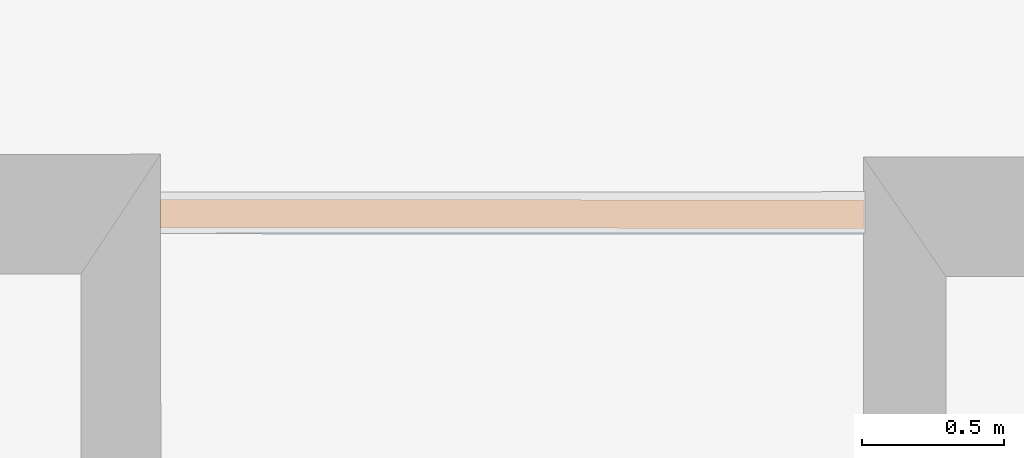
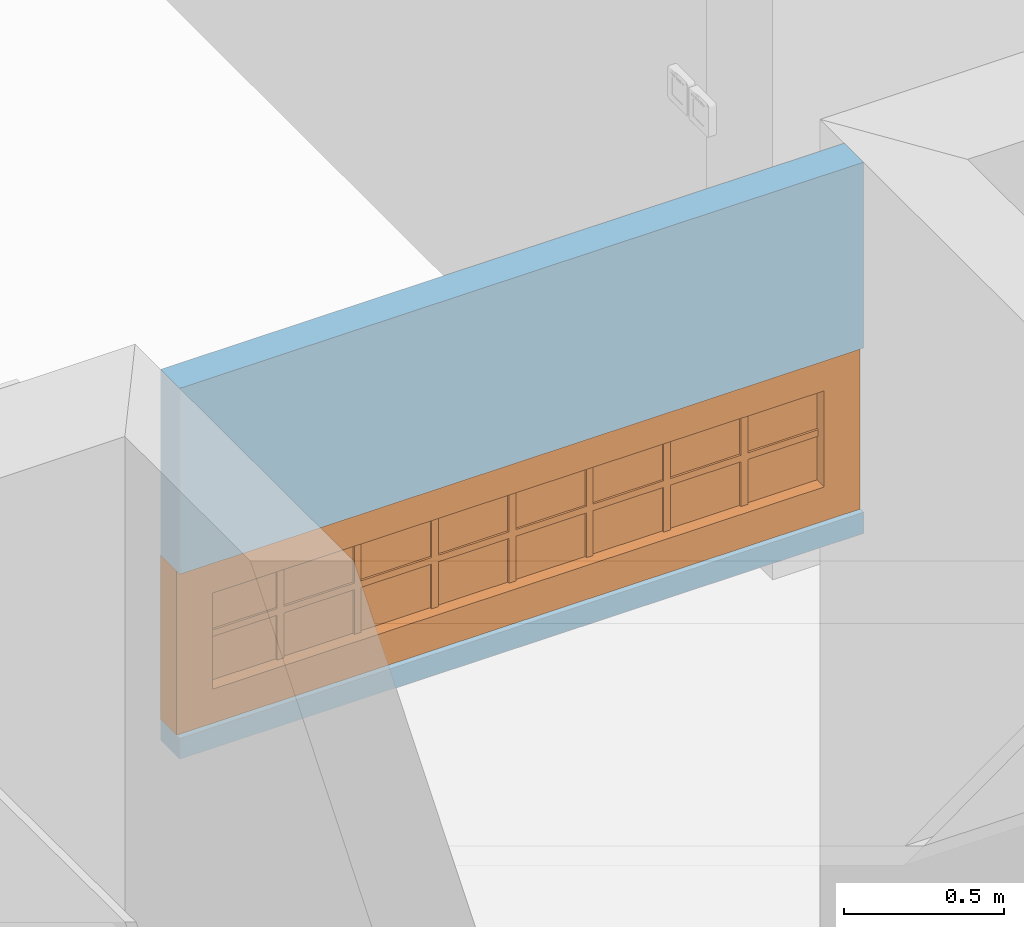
# One storey, part 75 of 158: 1 proxy, 1 opening, plus 1 element that does not belong to this part.
"""IFC2X3 building model written with IfcOpenShell, lengths in metres."""

from ifc_helpers import new_model, entity, si_unit, converted_unit, derived_unit, money_unit, direction, frame, origin_with_axes, origin_2d_with_axis, place, context, subcontext, project, spatial, polyline, rectangle, outline, extrude, faceted_brep, material, layer, layer_set, layer_usage, type_object, element, fill, save


model = new_model("IFC2X3")

# Units and contexts
model_context = context("Model", 3, precision=1e-05, world=origin_with_axes(), true_north=direction((0.0, 1.0)))
body_context = subcontext(model_context, "Body", "Model", "MODEL_VIEW")
ifc_project = project(units=[si_unit("LENGTHUNIT", "METRE"), si_unit("AREAUNIT", "SQUARE_METRE"), si_unit("VOLUMEUNIT", "CUBIC_METRE"), converted_unit("PLANEANGLEUNIT", "DEGREE", entity("IfcPlaneAngleMeasure", 0.0174532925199), si_unit("PLANEANGLEUNIT", "RADIAN"), dimensions=[0, 0, 0, 0, 0, 0, 0]), money_unit("EUR"), converted_unit("TIMEUNIT", "Year", entity("IfcTimeMeasure", 31556926.0), si_unit("TIMEUNIT", "SECOND"), dimensions=[0, 0, 1, 0, 0, 0, 0]), si_unit("MASSUNIT", "GRAM", prefix="KILO"), si_unit("THERMODYNAMICTEMPERATUREUNIT", "DEGREE_CELSIUS"), si_unit("LUMINOUSINTENSITYUNIT", "LUMEN"), si_unit("ENERGYUNIT", "JOULE", prefix="MEGA"), derived_unit("THERMALCONDUCTANCEUNIT", [(si_unit("POWERUNIT", "WATT"), 1), (si_unit("LENGTHUNIT", "METRE"), -1), (si_unit("THERMODYNAMICTEMPERATUREUNIT", "KELVIN"), -1)]), derived_unit("SPECIFICHEATCAPACITYUNIT", [(si_unit("ENERGYUNIT", "JOULE"), 1), (si_unit("MASSUNIT", "GRAM", prefix="KILO"), -1), (si_unit("THERMODYNAMICTEMPERATUREUNIT", "KELVIN"), -1)]), derived_unit("MASSDENSITYUNIT", [(si_unit("MASSUNIT", "GRAM", prefix="KILO"), 1), (si_unit("VOLUMEUNIT", "CUBIC_METRE"), -1)])], contexts=[model_context])

# Site, building, storey
site_placement = place(None, origin_with_axes())
site = spatial("IfcSite", under=ifc_project, at=site_placement, Name="Gelände", CompositionType="ELEMENT")
building_placement = place(site_placement, origin_with_axes())
building = spatial("IfcBuilding", under=site, at=building_placement, Name="Gebäude", CompositionType="ELEMENT")
storey_placement = place(building_placement, origin_with_axes())
storey = spatial("IfcBuildingStorey", under=building, at=storey_placement, Name="ERDGESCHOSS", CompositionType="ELEMENT", Elevation=0.0)

# Wall, opening, proxy
ifc_material = material(Name="05_ALLGEMEIN - TRAGENDE BAUTEILE")
ifc_layer = layer(ifc_material, 0.12, ventilated="UNKNOWN")
ifc_layer_set = layer_set([ifc_layer], Name="05_ALLGEMEIN - TRAGENDE BAUTEILE 0.12")
ifc_layer_usage = layer_usage(ifc_layer_set, "AXIS2", "NEGATIVE", 0.0)
wall_type = type_object("IfcWallType", Name="05_ALLGEMEIN - TRAGENDE BAUTEILE 120", PredefinedType="ELEMENTEDWALL")
wall_placement = place(storey_placement, frame((-8.8958416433, 16.6259238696, 2.18389869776), z_axis=(0.0, 0.0, 1.0), x_axis=(0.999999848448, -0.000550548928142, 0.0)))
wall = element("IfcWallStandardCase", 1, at=wall_placement, inside=storey, type_object=wall_type, material=ifc_layer_usage, Name="Wand-036", ObjectType="ELEMENTEDWALL", context=body_context, shape_type="SweptSolid", body=[
    extrude(outline(polyline([(0.280162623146, -0.12), (2.74785957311, -0.12), (2.74785957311, 0.0), (0.280000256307, 0.0), (0.280162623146, -0.12)])), origin_with_axes(), (0.0, 0.0, 1.0), 1.41610130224),
])
opening_placement = place(wall_placement, frame((1.51392991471, 0.0, 0.0799876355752), z_axis=(0.0, 0.0, 1.0), x_axis=(1.0, 0.0, 0.0)))
opening = element("IfcOpeningElement", 2, at=opening_placement, cuts=wall, Name="Fenster-016", context=body_context, shape_type="SweptSolid", body=[
    extrude(rectangle(XDim=2.4678593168, YDim=0.62715, at=origin_2d_with_axis()), frame((0.0, -0.12, 0.313575), z_axis=(0.0, 1.0, 0.0), x_axis=(-1.0, 0.0, 0.0)), (0.0, 0.0, 1.0), 0.36),
])
building_element_proxy_type = type_object("IfcBuildingElementProxyType", Name="1-Flügelfenster 25", PredefinedType="NOTDEFINED")
proxy_placement = place(opening_placement, frame((1.2339296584, 0.0, 0.0), z_axis=(0.0, 0.0, 1.0), x_axis=(-1.0, 0.0, 0.0)))
proxy = element("IfcBuildingElementProxy", 3, at=proxy_placement, inside=storey, type_object=building_element_proxy_type, Name="Fenster-016", context=body_context, shape_type="Brep", body=[
    faceted_brep([(0.0, 0.0, 0.0), (0.0, 0.1, 0.0), (0.13, 0.1, 0.13), (0.13, 0.0, 0.13), (0.0, 0.0, 0.62715), (0.0, 0.1, 0.62715), (0.13, 0.1, 0.49715), (0.13, 0.0, 0.49715)], [[[0, 1, 2, 3]], [[4, 5, 1, 0]], [[1, 5, 6, 2]], [[3, 2, 6, 7]], [[0, 3, 7, 4]], [[7, 6, 5, 4]]]),
    faceted_brep([(2.4678593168, 0.0, 0.0), (2.4678593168, 0.1, 0.0), (2.4678593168, 0.1, 0.62715), (2.4678593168, 0.0, 0.62715), (2.3378593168, 0.0, 0.13), (2.3378593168, 0.1, 0.13), (2.3378593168, 0.1, 0.49715), (2.3378593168, 0.0, 0.49715)], [[[0, 1, 2, 3]], [[4, 5, 1, 0]], [[1, 5, 6, 2]], [[3, 2, 6, 7]], [[0, 3, 7, 4]], [[7, 6, 5, 4]]]),
    faceted_brep([(0.0, 0.0, 0.0), (0.0, 0.1, 0.0), (2.4678593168, 0.1, 0.0), (2.4678593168, 0.0, 0.0), (0.13, 0.0, 0.13), (0.13, 0.1, 0.13), (1.2339296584, 0.1, 0.13), (2.3378593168, 0.1, 0.13), (2.3378593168, 0.0, 0.13), (1.2339296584, 0.0, 0.13)], [[[0, 1, 2, 3]], [[4, 5, 1, 0]], [[1, 5, 6, 7, 2]], [[3, 2, 7, 8]], [[0, 3, 8, 9, 4]], [[9, 6, 5, 4]], [[8, 7, 6, 9]]]),
    faceted_brep([(0.0, 0.0, 0.62715), (0.0, 0.1, 0.62715), (0.13, 0.1, 0.49715), (0.13, 0.0, 0.49715), (2.4678593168, 0.0, 0.62715), (2.4678593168, 0.1, 0.62715), (2.3378593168, 0.1, 0.49715), (1.2339296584, 0.1, 0.49715), (1.2339296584, 0.0, 0.49715), (2.3378593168, 0.0, 0.49715)], [[[0, 1, 2, 3]], [[4, 5, 1, 0]], [[1, 5, 6, 7, 2]], [[3, 2, 7, 8]], [[0, 3, 8, 9, 4]], [[9, 6, 5, 4]], [[8, 7, 6, 9]]]),
    faceted_brep([(0.3841074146, 0.0375, 0.13), (0.3841074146, 0.05, 0.13), (0.4091074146, 0.05, 0.13), (0.4091074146, 0.0375, 0.13), (0.3841074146, 0.0375, 0.49715), (0.3841074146, 0.05, 0.49715), (0.4091074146, 0.05, 0.49715), (0.4091074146, 0.0375, 0.49715)], [[[0, 1, 2, 3]], [[4, 5, 1, 0]], [[1, 5, 6, 2]], [[3, 2, 6, 7]], [[0, 3, 7, 4]], [[7, 6, 5, 4]]]),
    faceted_brep([(0.3841074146, 0.05, 0.13), (0.3841074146, 0.0625, 0.13), (0.4091074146, 0.0625, 0.13), (0.4091074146, 0.05, 0.13), (0.3841074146, 0.05, 0.49715), (0.3841074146, 0.0625, 0.49715), (0.4091074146, 0.0625, 0.49715), (0.4091074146, 0.05, 0.49715)], [[[0, 1, 2, 3]], [[4, 5, 1, 0]], [[1, 5, 6, 2]], [[3, 2, 6, 7]], [[0, 3, 7, 4]], [[7, 6, 5, 4]]]),
    faceted_brep([(0.6632148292, 0.0375, 0.13), (0.6632148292, 0.05, 0.13), (0.6882148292, 0.05, 0.13), (0.6882148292, 0.0375, 0.13), (0.6632148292, 0.0375, 0.49715), (0.6632148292, 0.05, 0.49715), (0.6882148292, 0.05, 0.49715), (0.6882148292, 0.0375, 0.49715)], [[[0, 1, 2, 3]], [[4, 5, 1, 0]], [[1, 5, 6, 2]], [[3, 2, 6, 7]], [[0, 3, 7, 4]], [[7, 6, 5, 4]]]),
    faceted_brep([(0.6632148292, 0.05, 0.13), (0.6632148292, 0.0625, 0.13), (0.6882148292, 0.0625, 0.13), (0.6882148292, 0.05, 0.13), (0.6632148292, 0.05, 0.49715), (0.6632148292, 0.0625, 0.49715), (0.6882148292, 0.0625, 0.49715), (0.6882148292, 0.05, 0.49715)], [[[0, 1, 2, 3]], [[4, 5, 1, 0]], [[1, 5, 6, 2]], [[3, 2, 6, 7]], [[0, 3, 7, 4]], [[7, 6, 5, 4]]]),
    faceted_brep([(0.9423222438, 0.0375, 0.13), (0.9423222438, 0.05, 0.13), (0.9673222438, 0.05, 0.13), (0.9673222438, 0.0375, 0.13), (0.9423222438, 0.0375, 0.49715), (0.9423222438, 0.05, 0.49715), (0.9673222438, 0.05, 0.49715), (0.9673222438, 0.0375, 0.49715)], [[[0, 1, 2, 3]], [[4, 5, 1, 0]], [[1, 5, 6, 2]], [[3, 2, 6, 7]], [[0, 3, 7, 4]], [[7, 6, 5, 4]]]),
    faceted_brep([(0.9423222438, 0.05, 0.13), (0.9423222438, 0.0625, 0.13), (0.9673222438, 0.0625, 0.13), (0.9673222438, 0.05, 0.13), (0.9423222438, 0.05, 0.49715), (0.9423222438, 0.0625, 0.49715), (0.9673222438, 0.0625, 0.49715), (0.9673222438, 0.05, 0.49715)], [[[0, 1, 2, 3]], [[4, 5, 1, 0]], [[1, 5, 6, 2]], [[3, 2, 6, 7]], [[0, 3, 7, 4]], [[7, 6, 5, 4]]]),
    faceted_brep([(1.2214296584, 0.0375, 0.13), (1.2214296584, 0.05, 0.13), (1.2464296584, 0.05, 0.13), (1.2464296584, 0.0375, 0.13), (1.2214296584, 0.0375, 0.49715), (1.2214296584, 0.05, 0.49715), (1.2464296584, 0.05, 0.49715), (1.2464296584, 0.0375, 0.49715)], [[[0, 1, 2, 3]], [[4, 5, 1, 0]], [[1, 5, 6, 2]], [[3, 2, 6, 7]], [[0, 3, 7, 4]], [[7, 6, 5, 4]]]),
    faceted_brep([(1.2214296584, 0.05, 0.13), (1.2214296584, 0.0625, 0.13), (1.2464296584, 0.0625, 0.13), (1.2464296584, 0.05, 0.13), (1.2214296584, 0.05, 0.49715), (1.2214296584, 0.0625, 0.49715), (1.2464296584, 0.0625, 0.49715), (1.2464296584, 0.05, 0.49715)], [[[0, 1, 2, 3]], [[4, 5, 1, 0]], [[1, 5, 6, 2]], [[3, 2, 6, 7]], [[0, 3, 7, 4]], [[7, 6, 5, 4]]]),
    faceted_brep([(1.500537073, 0.0375, 0.13), (1.500537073, 0.05, 0.13), (1.525537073, 0.05, 0.13), (1.525537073, 0.0375, 0.13), (1.500537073, 0.0375, 0.49715), (1.500537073, 0.05, 0.49715), (1.525537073, 0.05, 0.49715), (1.525537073, 0.0375, 0.49715)], [[[0, 1, 2, 3]], [[4, 5, 1, 0]], [[1, 5, 6, 2]], [[3, 2, 6, 7]], [[0, 3, 7, 4]], [[7, 6, 5, 4]]]),
    faceted_brep([(1.500537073, 0.05, 0.13), (1.500537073, 0.0625, 0.13), (1.525537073, 0.0625, 0.13), (1.525537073, 0.05, 0.13), (1.500537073, 0.05, 0.49715), (1.500537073, 0.0625, 0.49715), (1.525537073, 0.0625, 0.49715), (1.525537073, 0.05, 0.49715)], [[[0, 1, 2, 3]], [[4, 5, 1, 0]], [[1, 5, 6, 2]], [[3, 2, 6, 7]], [[0, 3, 7, 4]], [[7, 6, 5, 4]]]),
    faceted_brep([(1.7796444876, 0.0375, 0.13), (1.7796444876, 0.05, 0.13), (1.8046444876, 0.05, 0.13), (1.8046444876, 0.0375, 0.13), (1.7796444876, 0.0375, 0.49715), (1.7796444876, 0.05, 0.49715), (1.8046444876, 0.05, 0.49715), (1.8046444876, 0.0375, 0.49715)], [[[0, 1, 2, 3]], [[4, 5, 1, 0]], [[1, 5, 6, 2]], [[3, 2, 6, 7]], [[0, 3, 7, 4]], [[7, 6, 5, 4]]]),
    faceted_brep([(1.7796444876, 0.05, 0.13), (1.7796444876, 0.0625, 0.13), (1.8046444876, 0.0625, 0.13), (1.8046444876, 0.05, 0.13), (1.7796444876, 0.05, 0.49715), (1.7796444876, 0.0625, 0.49715), (1.8046444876, 0.0625, 0.49715), (1.8046444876, 0.05, 0.49715)], [[[0, 1, 2, 3]], [[4, 5, 1, 0]], [[1, 5, 6, 2]], [[3, 2, 6, 7]], [[0, 3, 7, 4]], [[7, 6, 5, 4]]]),
    faceted_brep([(2.0587519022, 0.0375, 0.13), (2.0587519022, 0.05, 0.13), (2.0837519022, 0.05, 0.13), (2.0837519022, 0.0375, 0.13), (2.0587519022, 0.0375, 0.49715), (2.0587519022, 0.05, 0.49715), (2.0837519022, 0.05, 0.49715), (2.0837519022, 0.0375, 0.49715)], [[[0, 1, 2, 3]], [[4, 5, 1, 0]], [[1, 5, 6, 2]], [[3, 2, 6, 7]], [[0, 3, 7, 4]], [[7, 6, 5, 4]]]),
    faceted_brep([(2.0587519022, 0.05, 0.13), (2.0587519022, 0.0625, 0.13), (2.0837519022, 0.0625, 0.13), (2.0837519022, 0.05, 0.13), (2.0587519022, 0.05, 0.49715), (2.0587519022, 0.0625, 0.49715), (2.0837519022, 0.0625, 0.49715), (2.0837519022, 0.05, 0.49715)], [[[0, 1, 2, 3]], [[4, 5, 1, 0]], [[1, 5, 6, 2]], [[3, 2, 6, 7]], [[0, 3, 7, 4]], [[7, 6, 5, 4]]]),
    faceted_brep([(2.0587519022, 0.0375, 0.301075), (2.0587519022, 0.0375, 0.326075), (1.8046444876, 0.0375, 0.326075), (1.8046444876, 0.0375, 0.301075), (2.0587519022, 0.05, 0.326075), (2.0587519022, 0.05, 0.301075), (1.8046444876, 0.05, 0.326075), (1.8046444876, 0.05, 0.301075)], [[[0, 1, 2, 3]], [[4, 1, 0, 5]], [[1, 4, 6, 2]], [[2, 6, 7, 3]], [[5, 0, 3, 7]], [[4, 5, 7, 6]]]),
    faceted_brep([(1.525537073, 0.0375, 0.326075), (1.525537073, 0.0375, 0.301075), (1.7796444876, 0.0375, 0.301075), (1.7796444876, 0.0375, 0.326075), (1.525537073, 0.05, 0.301075), (1.525537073, 0.05, 0.326075), (1.7796444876, 0.05, 0.301075), (1.7796444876, 0.05, 0.326075)], [[[0, 1, 2, 3]], [[4, 1, 0, 5]], [[1, 4, 6, 2]], [[2, 6, 7, 3]], [[5, 0, 3, 7]], [[4, 5, 7, 6]]]),
    faceted_brep([(1.500537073, 0.0375, 0.301075), (1.500537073, 0.0375, 0.326075), (1.2464296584, 0.0375, 0.326075), (1.2464296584, 0.0375, 0.301075), (1.500537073, 0.05, 0.326075), (1.500537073, 0.05, 0.301075), (1.2464296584, 0.05, 0.326075), (1.2464296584, 0.05, 0.301075)], [[[0, 1, 2, 3]], [[4, 1, 0, 5]], [[1, 4, 6, 2]], [[2, 6, 7, 3]], [[5, 0, 3, 7]], [[4, 5, 7, 6]]]),
    faceted_brep([(0.9673222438, 0.0375, 0.326075), (0.9673222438, 0.0375, 0.301075), (1.2214296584, 0.0375, 0.301075), (1.2214296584, 0.0375, 0.326075), (0.9673222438, 0.05, 0.301075), (0.9673222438, 0.05, 0.326075), (1.2214296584, 0.05, 0.301075), (1.2214296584, 0.05, 0.326075)], [[[0, 1, 2, 3]], [[4, 1, 0, 5]], [[1, 4, 6, 2]], [[2, 6, 7, 3]], [[5, 0, 3, 7]], [[4, 5, 7, 6]]]),
    faceted_brep([(0.9423222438, 0.0375, 0.301075), (0.9423222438, 0.0375, 0.326075), (0.6882148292, 0.0375, 0.326075), (0.6882148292, 0.0375, 0.301075), (0.9423222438, 0.05, 0.326075), (0.9423222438, 0.05, 0.301075), (0.6882148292, 0.05, 0.326075), (0.6882148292, 0.05, 0.301075)], [[[0, 1, 2, 3]], [[4, 1, 0, 5]], [[1, 4, 6, 2]], [[2, 6, 7, 3]], [[5, 0, 3, 7]], [[4, 5, 7, 6]]]),
    faceted_brep([(0.4091074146, 0.0375, 0.326075), (0.4091074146, 0.0375, 0.301075), (0.6632148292, 0.0375, 0.301075), (0.6632148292, 0.0375, 0.326075), (0.4091074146, 0.05, 0.301075), (0.4091074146, 0.05, 0.326075), (0.6632148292, 0.05, 0.301075), (0.6632148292, 0.05, 0.326075)], [[[0, 1, 2, 3]], [[4, 1, 0, 5]], [[1, 4, 6, 2]], [[2, 6, 7, 3]], [[5, 0, 3, 7]], [[4, 5, 7, 6]]]),
    faceted_brep([(0.3841074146, 0.0375, 0.301075), (0.3841074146, 0.0375, 0.326075), (0.13, 0.0375, 0.326075), (0.13, 0.0375, 0.301075), (0.3841074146, 0.05, 0.326075), (0.3841074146, 0.05, 0.301075), (0.13, 0.05, 0.326075), (0.13, 0.05, 0.301075)], [[[0, 1, 2, 3]], [[4, 1, 0, 5]], [[1, 4, 6, 2]], [[6, 7, 3, 2]], [[5, 0, 3, 7]], [[4, 5, 7, 6]]]),
    faceted_brep([(2.0837519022, 0.05, 0.326075), (2.0837519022, 0.0375, 0.326075), (2.3378593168, 0.0375, 0.326075), (2.3378593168, 0.05, 0.326075), (2.0837519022, 0.0375, 0.301075), (2.0837519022, 0.05, 0.301075), (2.3378593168, 0.0375, 0.301075), (2.3378593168, 0.05, 0.301075)], [[[0, 1, 2, 3]], [[4, 1, 0, 5]], [[1, 4, 6, 2]], [[2, 6, 7, 3]], [[5, 0, 3, 7]], [[4, 5, 7, 6]]]),
    faceted_brep([(2.0587519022, 0.05, 0.301075), (2.0587519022, 0.05, 0.326075), (1.8046444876, 0.05, 0.326075), (1.8046444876, 0.05, 0.301075), (2.0587519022, 0.0625, 0.326075), (2.0587519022, 0.0625, 0.301075), (1.8046444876, 0.0625, 0.326075), (1.8046444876, 0.0625, 0.301075)], [[[0, 1, 2, 3]], [[4, 1, 0, 5]], [[1, 4, 6, 2]], [[2, 6, 7, 3]], [[5, 0, 3, 7]], [[4, 5, 7, 6]]]),
    faceted_brep([(1.525537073, 0.05, 0.326075), (1.525537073, 0.05, 0.301075), (1.7796444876, 0.05, 0.301075), (1.7796444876, 0.05, 0.326075), (1.525537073, 0.0625, 0.301075), (1.525537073, 0.0625, 0.326075), (1.7796444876, 0.0625, 0.301075), (1.7796444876, 0.0625, 0.326075)], [[[0, 1, 2, 3]], [[4, 1, 0, 5]], [[1, 4, 6, 2]], [[2, 6, 7, 3]], [[5, 0, 3, 7]], [[4, 5, 7, 6]]]),
    faceted_brep([(1.500537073, 0.05, 0.301075), (1.500537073, 0.05, 0.326075), (1.2464296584, 0.05, 0.326075), (1.2464296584, 0.05, 0.301075), (1.500537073, 0.0625, 0.326075), (1.500537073, 0.0625, 0.301075), (1.2464296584, 0.0625, 0.326075), (1.2464296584, 0.0625, 0.301075)], [[[0, 1, 2, 3]], [[4, 1, 0, 5]], [[1, 4, 6, 2]], [[2, 6, 7, 3]], [[5, 0, 3, 7]], [[4, 5, 7, 6]]]),
    faceted_brep([(0.9673222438, 0.05, 0.326075), (0.9673222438, 0.05, 0.301075), (1.2214296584, 0.05, 0.301075), (1.2214296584, 0.05, 0.326075), (0.9673222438, 0.0625, 0.301075), (0.9673222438, 0.0625, 0.326075), (1.2214296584, 0.0625, 0.301075), (1.2214296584, 0.0625, 0.326075)], [[[0, 1, 2, 3]], [[4, 1, 0, 5]], [[1, 4, 6, 2]], [[2, 6, 7, 3]], [[5, 0, 3, 7]], [[4, 5, 7, 6]]]),
    faceted_brep([(0.9423222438, 0.05, 0.301075), (0.9423222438, 0.05, 0.326075), (0.6882148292, 0.05, 0.326075), (0.6882148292, 0.05, 0.301075), (0.9423222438, 0.0625, 0.326075), (0.9423222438, 0.0625, 0.301075), (0.6882148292, 0.0625, 0.326075), (0.6882148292, 0.0625, 0.301075)], [[[0, 1, 2, 3]], [[4, 1, 0, 5]], [[1, 4, 6, 2]], [[2, 6, 7, 3]], [[5, 0, 3, 7]], [[4, 5, 7, 6]]]),
    faceted_brep([(0.4091074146, 0.05, 0.326075), (0.4091074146, 0.05, 0.301075), (0.6632148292, 0.05, 0.301075), (0.6632148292, 0.05, 0.326075), (0.4091074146, 0.0625, 0.301075), (0.4091074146, 0.0625, 0.326075), (0.6632148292, 0.0625, 0.301075), (0.6632148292, 0.0625, 0.326075)], [[[0, 1, 2, 3]], [[4, 1, 0, 5]], [[1, 4, 6, 2]], [[2, 6, 7, 3]], [[5, 0, 3, 7]], [[4, 5, 7, 6]]]),
    faceted_brep([(0.3841074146, 0.05, 0.301075), (0.3841074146, 0.05, 0.326075), (0.13, 0.05, 0.326075), (0.13, 0.05, 0.301075), (0.3841074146, 0.0625, 0.326075), (0.3841074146, 0.0625, 0.301075), (0.13, 0.0625, 0.326075), (0.13, 0.0625, 0.301075)], [[[0, 1, 2, 3]], [[4, 1, 0, 5]], [[1, 4, 6, 2]], [[6, 7, 3, 2]], [[5, 0, 3, 7]], [[4, 5, 7, 6]]]),
    faceted_brep([(2.0837519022, 0.0625, 0.326075), (2.0837519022, 0.05, 0.326075), (2.3378593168, 0.05, 0.326075), (2.3378593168, 0.0625, 0.326075), (2.0837519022, 0.05, 0.301075), (2.0837519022, 0.0625, 0.301075), (2.3378593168, 0.05, 0.301075), (2.3378593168, 0.0625, 0.301075)], [[[0, 1, 2, 3]], [[4, 1, 0, 5]], [[1, 4, 6, 2]], [[2, 6, 7, 3]], [[5, 0, 3, 7]], [[4, 5, 7, 6]]]),
    faceted_brep([(2.3378593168, 0.055, 0.301075), (2.3378593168, 0.045, 0.301075), (2.3378593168, 0.045, 0.13), (2.3378593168, 0.055, 0.13), (2.0837519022, 0.045, 0.301075), (2.0837519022, 0.055, 0.301075), (2.0837519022, 0.045, 0.13), (2.0837519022, 0.055, 0.13)], [[[0, 1, 2, 3]], [[4, 1, 0, 5]], [[1, 4, 6, 2]], [[7, 3, 2, 6]], [[5, 0, 3, 7]], [[4, 5, 7, 6]]]),
    faceted_brep([(2.0587519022, 0.055, 0.301075), (2.0587519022, 0.045, 0.301075), (2.0587519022, 0.045, 0.13), (2.0587519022, 0.055, 0.13), (1.8046444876, 0.045, 0.301075), (1.8046444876, 0.055, 0.301075), (1.8046444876, 0.045, 0.13), (1.8046444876, 0.055, 0.13)], [[[0, 1, 2, 3]], [[4, 1, 0, 5]], [[1, 4, 6, 2]], [[2, 6, 7, 3]], [[5, 0, 3, 7]], [[4, 5, 7, 6]]]),
    faceted_brep([(1.7796444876, 0.055, 0.301075), (1.7796444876, 0.045, 0.301075), (1.7796444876, 0.045, 0.13), (1.7796444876, 0.055, 0.13), (1.525537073, 0.045, 0.301075), (1.525537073, 0.055, 0.301075), (1.525537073, 0.045, 0.13), (1.525537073, 0.055, 0.13)], [[[0, 1, 2, 3]], [[4, 1, 0, 5]], [[1, 4, 6, 2]], [[7, 3, 2, 6]], [[5, 0, 3, 7]], [[4, 5, 7, 6]]]),
    faceted_brep([(1.500537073, 0.055, 0.301075), (1.500537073, 0.045, 0.301075), (1.500537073, 0.045, 0.13), (1.500537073, 0.055, 0.13), (1.2464296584, 0.045, 0.301075), (1.2464296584, 0.055, 0.301075), (1.2464296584, 0.045, 0.13), (1.2464296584, 0.055, 0.13)], [[[0, 1, 2, 3]], [[4, 1, 0, 5]], [[1, 4, 6, 2]], [[2, 6, 7, 3]], [[5, 0, 3, 7]], [[4, 5, 7, 6]]]),
    faceted_brep([(1.2214296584, 0.055, 0.301075), (1.2214296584, 0.045, 0.301075), (1.2214296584, 0.045, 0.13), (1.2214296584, 0.055, 0.13), (0.9673222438, 0.045, 0.301075), (0.9673222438, 0.055, 0.301075), (0.9673222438, 0.045, 0.13), (0.9673222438, 0.055, 0.13)], [[[0, 1, 2, 3]], [[4, 1, 0, 5]], [[1, 4, 6, 2]], [[7, 3, 2, 6]], [[5, 0, 3, 7]], [[4, 5, 7, 6]]]),
    faceted_brep([(0.9423222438, 0.055, 0.301075), (0.9423222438, 0.045, 0.301075), (0.9423222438, 0.045, 0.13), (0.9423222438, 0.055, 0.13), (0.6882148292, 0.045, 0.301075), (0.6882148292, 0.055, 0.301075), (0.6882148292, 0.045, 0.13), (0.6882148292, 0.055, 0.13)], [[[0, 1, 2, 3]], [[4, 1, 0, 5]], [[1, 4, 6, 2]], [[2, 6, 7, 3]], [[5, 0, 3, 7]], [[4, 5, 7, 6]]]),
    faceted_brep([(0.6632148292, 0.055, 0.301075), (0.6632148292, 0.045, 0.301075), (0.6632148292, 0.045, 0.13), (0.6632148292, 0.055, 0.13), (0.4091074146, 0.045, 0.301075), (0.4091074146, 0.055, 0.301075), (0.4091074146, 0.045, 0.13), (0.4091074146, 0.055, 0.13)], [[[0, 1, 2, 3]], [[4, 1, 0, 5]], [[1, 4, 6, 2]], [[7, 3, 2, 6]], [[5, 0, 3, 7]], [[4, 5, 7, 6]]]),
    faceted_brep([(0.3841074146, 0.055, 0.301075), (0.3841074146, 0.045, 0.301075), (0.3841074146, 0.045, 0.13), (0.3841074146, 0.055, 0.13), (0.13, 0.045, 0.301075), (0.13, 0.055, 0.301075), (0.13, 0.045, 0.13), (0.13, 0.055, 0.13)], [[[0, 1, 2, 3]], [[4, 1, 0, 5]], [[1, 4, 6, 2]], [[2, 6, 7, 3]], [[5, 0, 3, 7]], [[4, 5, 7, 6]]]),
    faceted_brep([(2.0837519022, 0.045, 0.326075), (2.3378593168, 0.045, 0.326075), (2.3378593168, 0.045, 0.49715), (2.0837519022, 0.045, 0.49715), (2.3378593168, 0.055, 0.326075), (2.0837519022, 0.055, 0.326075), (2.3378593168, 0.055, 0.49715), (2.0837519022, 0.055, 0.49715)], [[[0, 1, 2, 3]], [[4, 1, 0, 5]], [[1, 4, 6, 2]], [[3, 2, 6, 7]], [[5, 0, 3, 7]], [[4, 5, 7, 6]]]),
    faceted_brep([(1.8046444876, 0.045, 0.326075), (2.0587519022, 0.045, 0.326075), (2.0587519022, 0.045, 0.49715), (1.8046444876, 0.045, 0.49715), (2.0587519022, 0.055, 0.326075), (1.8046444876, 0.055, 0.326075), (2.0587519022, 0.055, 0.49715), (1.8046444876, 0.055, 0.49715)], [[[0, 1, 2, 3]], [[4, 1, 0, 5]], [[1, 4, 6, 2]], [[6, 7, 3, 2]], [[5, 0, 3, 7]], [[4, 5, 7, 6]]]),
    faceted_brep([(1.525537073, 0.045, 0.326075), (1.7796444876, 0.045, 0.326075), (1.7796444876, 0.045, 0.49715), (1.525537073, 0.045, 0.49715), (1.7796444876, 0.055, 0.326075), (1.525537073, 0.055, 0.326075), (1.7796444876, 0.055, 0.49715), (1.525537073, 0.055, 0.49715)], [[[0, 1, 2, 3]], [[4, 1, 0, 5]], [[1, 4, 6, 2]], [[3, 2, 6, 7]], [[5, 0, 3, 7]], [[4, 5, 7, 6]]]),
    faceted_brep([(1.2464296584, 0.045, 0.326075), (1.500537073, 0.045, 0.326075), (1.500537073, 0.045, 0.49715), (1.2464296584, 0.045, 0.49715), (1.500537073, 0.055, 0.326075), (1.2464296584, 0.055, 0.326075), (1.500537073, 0.055, 0.49715), (1.2464296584, 0.055, 0.49715)], [[[0, 1, 2, 3]], [[4, 1, 0, 5]], [[1, 4, 6, 2]], [[6, 7, 3, 2]], [[5, 0, 3, 7]], [[4, 5, 7, 6]]]),
    faceted_brep([(0.9673222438, 0.045, 0.326075), (1.2214296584, 0.045, 0.326075), (1.2214296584, 0.045, 0.49715), (0.9673222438, 0.045, 0.49715), (1.2214296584, 0.055, 0.326075), (0.9673222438, 0.055, 0.326075), (1.2214296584, 0.055, 0.49715), (0.9673222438, 0.055, 0.49715)], [[[0, 1, 2, 3]], [[4, 1, 0, 5]], [[1, 4, 6, 2]], [[3, 2, 6, 7]], [[5, 0, 3, 7]], [[4, 5, 7, 6]]]),
    faceted_brep([(0.6882148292, 0.045, 0.326075), (0.9423222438, 0.045, 0.326075), (0.9423222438, 0.045, 0.49715), (0.6882148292, 0.045, 0.49715), (0.9423222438, 0.055, 0.326075), (0.6882148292, 0.055, 0.326075), (0.9423222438, 0.055, 0.49715), (0.6882148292, 0.055, 0.49715)], [[[0, 1, 2, 3]], [[4, 1, 0, 5]], [[1, 4, 6, 2]], [[6, 7, 3, 2]], [[5, 0, 3, 7]], [[4, 5, 7, 6]]]),
    faceted_brep([(0.4091074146, 0.045, 0.326075), (0.6632148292, 0.045, 0.326075), (0.6632148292, 0.045, 0.49715), (0.4091074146, 0.045, 0.49715), (0.6632148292, 0.055, 0.326075), (0.4091074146, 0.055, 0.326075), (0.6632148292, 0.055, 0.49715), (0.4091074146, 0.055, 0.49715)], [[[0, 1, 2, 3]], [[4, 1, 0, 5]], [[1, 4, 6, 2]], [[3, 2, 6, 7]], [[5, 0, 3, 7]], [[4, 5, 7, 6]]]),
    faceted_brep([(0.13, 0.045, 0.326075), (0.3841074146, 0.045, 0.326075), (0.3841074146, 0.045, 0.49715), (0.13, 0.045, 0.49715), (0.3841074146, 0.055, 0.326075), (0.13, 0.055, 0.326075), (0.3841074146, 0.055, 0.49715), (0.13, 0.055, 0.49715)], [[[0, 1, 2, 3]], [[4, 1, 0, 5]], [[1, 4, 6, 2]], [[6, 7, 3, 2]], [[5, 0, 3, 7]], [[4, 5, 7, 6]]]),
])
fill(opening, proxy)

save(model, "model.ifc")
